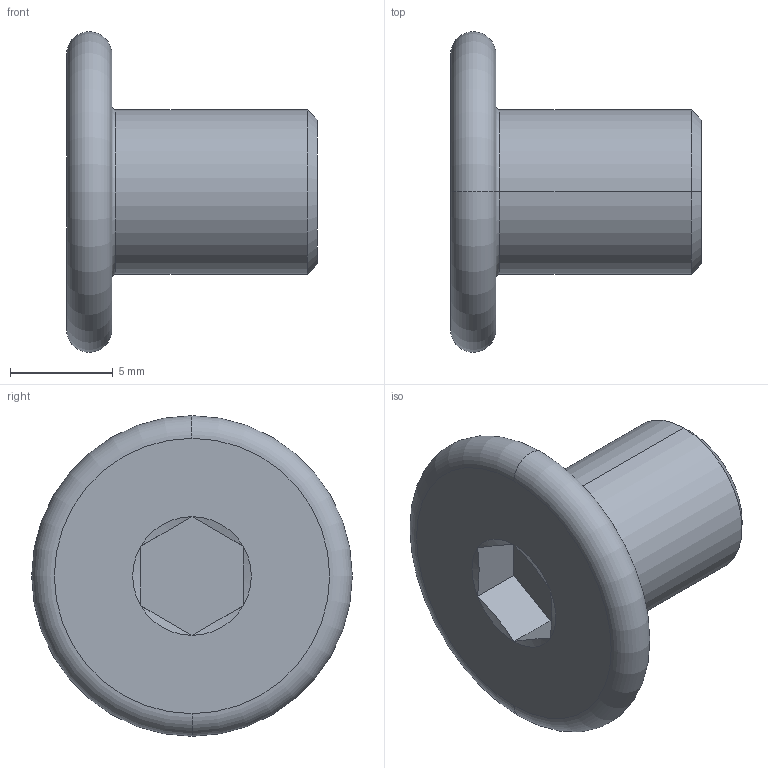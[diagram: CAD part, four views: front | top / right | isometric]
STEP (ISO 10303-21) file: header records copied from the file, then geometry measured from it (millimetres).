
FILE_DESCRIPTION (( 'STEP AP203' ), '1' );
FILE_NAME ('LGD-304M-M8x10.STEP', '2026-08-13T13:11:23', ( '' ), ( '' ), 'SwSTEP 2.0', 'SolidWorks 2020', '' );
FILE_SCHEMA (( 'CONFIG_CONTROL_DESIGN' ));
Length unit declared in the file: millimetre
Products named in the file (1): LGD-304M-M8x10
Bounding box: 12.2 x 15.6 x 15.6 mm (x, y, z)
Volume: 841.4 mm3; surface area: 726.5 mm2
Topology: 1 solids, 1 shells, 24 faces, 44 edges, 24 vertices
Faces by surface type: plane 10, cone 8, torus 4, cylinder 2
Entity records: 673 total; most frequent: CARTESIAN_POINT 119, DIRECTION 110, ORIENTED_EDGE 88, AXIS2_PLACEMENT_3D 47, EDGE_CURVE 44, EDGE_LOOP 26, FACE_OUTER_BOUND 24, ADVANCED_FACE 24
